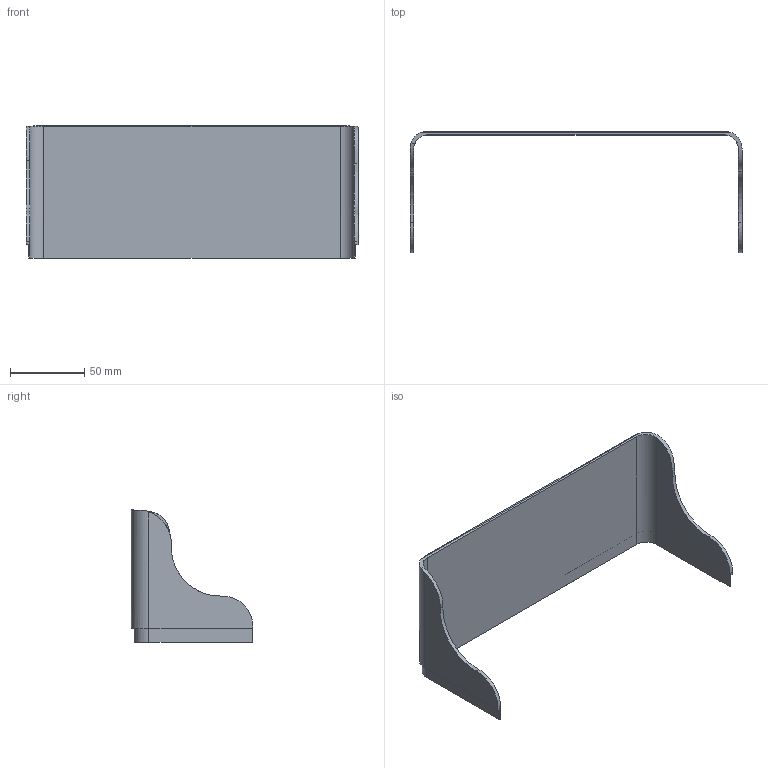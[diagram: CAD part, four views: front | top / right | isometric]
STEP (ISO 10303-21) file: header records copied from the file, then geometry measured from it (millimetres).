
FILE_DESCRIPTION(/* description */ (''),/* implementation_level */ '2;1');
FILE_NAME(/* name */ 'Volkswagen T6 Sunscreen.step',/* time_stamp */ '2025-05-21T19:23:02+02:00',/* author */ (''),/* organization */ (''),/* preprocessor_version */ 'ST-DEVELOPER v20.1',/* originating_system */ 'Autodesk Translation Framework v14.4.0.0',/* authorisation */ '');
FILE_SCHEMA (('AUTOMOTIVE_DESIGN { 1 0 10303 214 3 1 1 }'));
Length unit declared in the file: millimetre
Products named in the file (1): Volkswagen T6 Caravelle: Sunscreen
Bounding box: 223.8 x 81.9 x 89 mm (x, y, z)
Volume: 60965.5 mm3; surface area: 55968.7 mm2
Topology: 1 solids, 1 shells, 26 faces, 72 edges, 48 vertices
Faces by surface type: plane 14, cylinder 10, bspline 2
Entity records: 1021 total; most frequent: CARTESIAN_POINT 337, ORIENTED_EDGE 144, DIRECTION 125, EDGE_CURVE 72, VERTEX_POINT 48, AXIS2_PLACEMENT_3D 43, LINE 39, VECTOR 39
